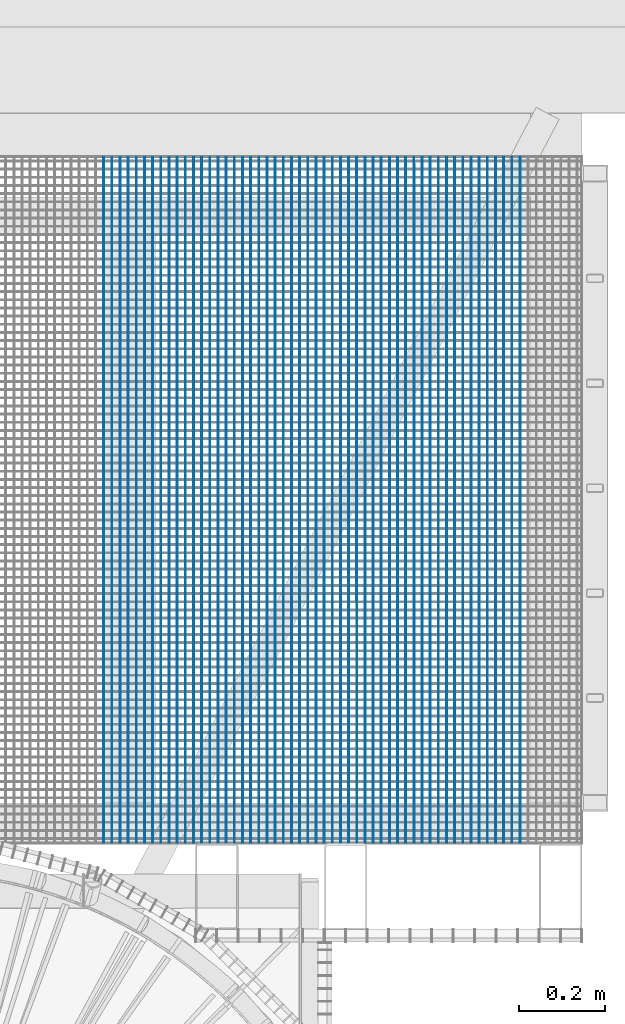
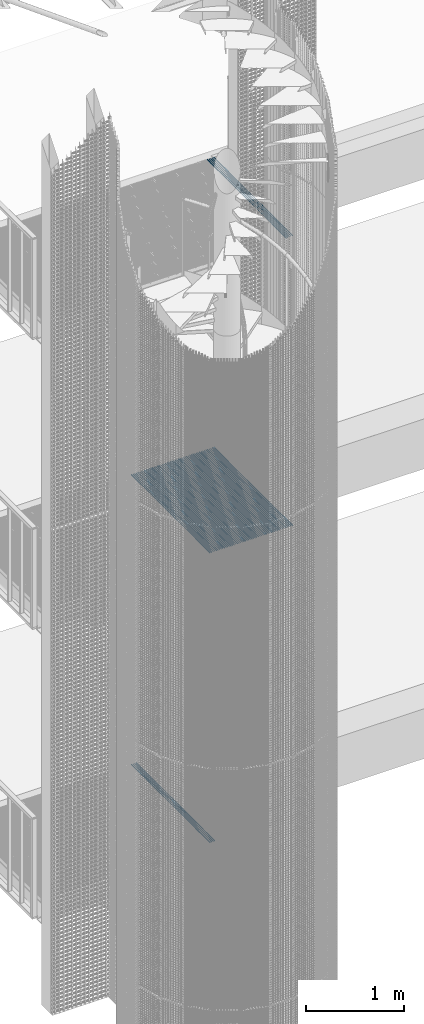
# One storey, part 88 of 1183: 61 beams, 3 elements without a shape of their own.
"""IFC2X3 building model written with IfcOpenShell, lengths in millimetres."""

from ifc_helpers import new_model, si_unit, frame, origin_with_axes, origin_2d_with_axis, place, context, subcontext, project, spatial, rectangle, extrude, material, type_object, element, aggregate, save


model = new_model("IFC2X3")

# Units and contexts
model_context = context("Model", 3, precision=1e-05, world=origin_with_axes())
body_context = subcontext(model_context, "Body", "Model", "MODEL_VIEW")
ifc_project = project(units=[si_unit("LENGTHUNIT", "METRE", prefix="MILLI"), si_unit("AREAUNIT", "SQUARE_METRE"), si_unit("VOLUMEUNIT", "CUBIC_METRE"), si_unit("MASSUNIT", "GRAM", prefix="KILO"), si_unit("TIMEUNIT", "SECOND"), si_unit("PLANEANGLEUNIT", "RADIAN"), si_unit("SOLIDANGLEUNIT", "STERADIAN"), si_unit("THERMODYNAMICTEMPERATUREUNIT", "DEGREE_CELSIUS"), si_unit("LUMINOUSINTENSITYUNIT", "LUMEN")], contexts=[model_context])

# Site, building, storey
site_placement = place(None, origin_with_axes())
site = spatial("IfcSite", under=ifc_project, at=site_placement, Name="Undefined", CompositionType="ELEMENT")
building_placement = place(site_placement, origin_with_axes())
building = spatial("IfcBuilding", under=site, at=building_placement, Name="Undefined", CompositionType="ELEMENT")
storey_placement = place(building_placement, origin_with_axes())
storey = spatial("IfcBuildingStorey", under=building, at=storey_placement, Name="Undefined", CompositionType="ELEMENT", Elevation=0.0)

# Assembly, beams
assembly_1_placement = place(storey_placement, origin_with_axes())
assembly_1 = element("IfcElementAssembly", 1, at=assembly_1_placement, inside=storey, Name="BORDURE", AssemblyPlace="NOTDEFINED", PredefinedType="NOTDEFINED")
ifc_material = material(Name="STEEL/S235JR")
beam_type = type_object("IfcBeamType", Name="PL2*10", PredefinedType="NOTDEFINED")
beam_1_placement = place(assembly_1_placement, frame((1330.07542471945, 1102.00886528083, 13685.0), z_axis=(0.0, 0.0, 1.0), x_axis=(-4.50599999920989e-06, 0.999999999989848, 0.0)))
beam_1 = element("IfcBeam", 2, at=beam_1_placement, type_object=beam_type, material=ifc_material, Name="ENTRETOISE", context=body_context, shape_type="SweptSolid", body=[
    extrude(rectangle(XDim=2.0, YDim=10.0, at=origin_2d_with_axis()), frame((1596.0000000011, -1.35186458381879e-18, -7.27595761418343e-12), z_axis=(-1.0, 0.0, 0.0), x_axis=(0.0, -1.0, 0.0)), (0.0, 0.0, 1.0), 1596.0),
])
beam_2_placement = place(assembly_1_placement, frame((1349.07542471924, 1102.00895879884, 13685.0), z_axis=(0.0, 0.0, 1.0), x_axis=(-4.50599999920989e-06, 0.999999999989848, 0.0)))
beam_2 = element("IfcBeam", 3, at=beam_2_placement, type_object=beam_type, material=ifc_material, Name="ENTRETOISE", context=body_context, shape_type="SweptSolid", body=[
    extrude(rectangle(XDim=2.0, YDim=10.0, at=origin_2d_with_axis()), frame((1596.0000000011, -1.35186458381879e-18, -7.27595761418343e-12), z_axis=(-1.0, 0.0, 0.0), x_axis=(0.0, -1.0, 0.0)), (0.0, 0.0, 1.0), 1596.0),
])
beam_3_placement = place(assembly_1_placement, frame((1368.07542471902, 1102.00905231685, 13685.0), z_axis=(0.0, 0.0, 1.0), x_axis=(-4.50599999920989e-06, 0.999999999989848, 0.0)))
beam_3 = element("IfcBeam", 4, at=beam_3_placement, type_object=beam_type, material=ifc_material, Name="ENTRETOISE", context=body_context, shape_type="SweptSolid", body=[
    extrude(rectangle(XDim=2.0, YDim=10.0, at=origin_2d_with_axis()), frame((1596.0000000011, -1.35186458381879e-18, -7.27595761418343e-12), z_axis=(-1.0, 0.0, 0.0), x_axis=(0.0, -1.0, 0.0)), (0.0, 0.0, 1.0), 1596.0),
])
beam_4_placement = place(assembly_1_placement, frame((1387.07542471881, 1102.00914583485, 13685.0), z_axis=(0.0, 0.0, 1.0), x_axis=(-4.50599999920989e-06, 0.999999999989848, 0.0)))
beam_4 = element("IfcBeam", 5, at=beam_4_placement, type_object=beam_type, material=ifc_material, Name="ENTRETOISE", context=body_context, shape_type="SweptSolid", body=[
    extrude(rectangle(XDim=2.0, YDim=10.0, at=origin_2d_with_axis()), frame((1596.0000000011, -1.35186458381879e-18, -7.27595761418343e-12), z_axis=(-1.0, 0.0, 0.0), x_axis=(0.0, -1.0, 0.0)), (0.0, 0.0, 1.0), 1596.0),
])
beam_5_placement = place(assembly_1_placement, frame((1406.0754247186, 1102.00923935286, 13685.0), z_axis=(0.0, 0.0, 1.0), x_axis=(-4.50599999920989e-06, 0.999999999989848, 0.0)))
beam_5 = element("IfcBeam", 6, at=beam_5_placement, type_object=beam_type, material=ifc_material, Name="ENTRETOISE", context=body_context, shape_type="SweptSolid", body=[
    extrude(rectangle(XDim=2.0, YDim=10.0, at=origin_2d_with_axis()), frame((1596.0000000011, -1.35186458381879e-18, -7.27595761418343e-12), z_axis=(-1.0, 0.0, 0.0), x_axis=(0.0, -1.0, 0.0)), (0.0, 0.0, 1.0), 1596.0),
])
aggregate(assembly_1, [beam_1, beam_2, beam_3, beam_4, beam_5])

assembly_2_placement = place(storey_placement, origin_with_axes())
assembly_2 = element("IfcElementAssembly", 7, at=assembly_2_placement, inside=storey, Name="BORDURE", AssemblyPlace="NOTDEFINED", PredefinedType="NOTDEFINED")
beam_6_placement = place(assembly_2_placement, frame((437.075424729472, 1102.00446993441, 10085.0), z_axis=(0.0, 0.0, 1.0), x_axis=(-4.50599999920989e-06, 0.999999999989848, 0.0)))
beam_6 = element("IfcBeam", 8, at=beam_6_placement, type_object=beam_type, material=ifc_material, Name="ENTRETOISE", context=body_context, shape_type="SweptSolid", body=[
    extrude(rectangle(XDim=2.0, YDim=10.0, at=origin_2d_with_axis()), frame((1596.0000000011, -1.35186458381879e-18, -7.27595761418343e-12), z_axis=(-1.0, 0.0, 0.0), x_axis=(0.0, -1.0, 0.0)), (0.0, 0.0, 1.0), 1596.0),
])
beam_7_placement = place(assembly_2_placement, frame((456.075424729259, 1102.00456345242, 10085.0), z_axis=(0.0, 0.0, 1.0), x_axis=(-4.50599999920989e-06, 0.999999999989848, 0.0)))
beam_7 = element("IfcBeam", 9, at=beam_7_placement, type_object=beam_type, material=ifc_material, Name="ENTRETOISE", context=body_context, shape_type="SweptSolid", body=[
    extrude(rectangle(XDim=2.0, YDim=10.0, at=origin_2d_with_axis()), frame((1596.0000000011, -1.35186458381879e-18, -7.27595761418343e-12), z_axis=(-1.0, 0.0, 0.0), x_axis=(0.0, -1.0, 0.0)), (0.0, 0.0, 1.0), 1596.0),
])
beam_8_placement = place(assembly_2_placement, frame((475.075424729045, 1102.00465697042, 10085.0), z_axis=(0.0, 0.0, 1.0), x_axis=(-4.50599999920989e-06, 0.999999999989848, 0.0)))
beam_8 = element("IfcBeam", 10, at=beam_8_placement, type_object=beam_type, material=ifc_material, Name="ENTRETOISE", context=body_context, shape_type="SweptSolid", body=[
    extrude(rectangle(XDim=2.0, YDim=10.0, at=origin_2d_with_axis()), frame((1596.0000000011, -1.35186458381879e-18, -7.27595761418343e-12), z_axis=(-1.0, 0.0, 0.0), x_axis=(0.0, -1.0, 0.0)), (0.0, 0.0, 1.0), 1596.0),
])
beam_9_placement = place(assembly_2_placement, frame((494.075424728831, 1102.00475048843, 10085.0), z_axis=(0.0, 0.0, 1.0), x_axis=(-4.50599999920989e-06, 0.999999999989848, 0.0)))
beam_9 = element("IfcBeam", 11, at=beam_9_placement, type_object=beam_type, material=ifc_material, Name="ENTRETOISE", context=body_context, shape_type="SweptSolid", body=[
    extrude(rectangle(XDim=2.0, YDim=10.0, at=origin_2d_with_axis()), frame((1596.0000000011, -1.35186458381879e-18, -7.27595761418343e-12), z_axis=(-1.0, 0.0, 0.0), x_axis=(0.0, -1.0, 0.0)), (0.0, 0.0, 1.0), 1596.0),
])
beam_10_placement = place(assembly_2_placement, frame((513.075424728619, 1102.00484400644, 10085.0), z_axis=(0.0, 0.0, 1.0), x_axis=(-4.50599999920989e-06, 0.999999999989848, 0.0)))
beam_10 = element("IfcBeam", 12, at=beam_10_placement, type_object=beam_type, material=ifc_material, Name="ENTRETOISE", context=body_context, shape_type="SweptSolid", body=[
    extrude(rectangle(XDim=2.0, YDim=10.0, at=origin_2d_with_axis()), frame((1596.0000000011, -1.35186458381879e-18, -7.27595761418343e-12), z_axis=(-1.0, 0.0, 0.0), x_axis=(0.0, -1.0, 0.0)), (0.0, 0.0, 1.0), 1596.0),
])
beam_11_placement = place(assembly_2_placement, frame((532.075424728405, 1102.00493752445, 10085.0), z_axis=(0.0, 0.0, 1.0), x_axis=(-4.50599999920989e-06, 0.999999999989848, 0.0)))
beam_11 = element("IfcBeam", 13, at=beam_11_placement, type_object=beam_type, material=ifc_material, Name="ENTRETOISE", context=body_context, shape_type="SweptSolid", body=[
    extrude(rectangle(XDim=2.0, YDim=10.0, at=origin_2d_with_axis()), frame((1596.0000000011, -1.35186458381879e-18, -7.27595761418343e-12), z_axis=(-1.0, 0.0, 0.0), x_axis=(0.0, -1.0, 0.0)), (0.0, 0.0, 1.0), 1596.0),
])
beam_12_placement = place(assembly_2_placement, frame((551.075424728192, 1102.00503104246, 10085.0), z_axis=(0.0, 0.0, 1.0), x_axis=(-4.50599999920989e-06, 0.999999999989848, 0.0)))
beam_12 = element("IfcBeam", 14, at=beam_12_placement, type_object=beam_type, material=ifc_material, Name="ENTRETOISE", context=body_context, shape_type="SweptSolid", body=[
    extrude(rectangle(XDim=2.0, YDim=10.0, at=origin_2d_with_axis()), frame((1596.0000000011, -1.35186458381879e-18, -7.27595761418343e-12), z_axis=(-1.0, 0.0, 0.0), x_axis=(0.0, -1.0, 0.0)), (0.0, 0.0, 1.0), 1596.0),
])
beam_13_placement = place(assembly_2_placement, frame((570.075424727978, 1102.00512456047, 10085.0), z_axis=(0.0, 0.0, 1.0), x_axis=(-4.50599999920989e-06, 0.999999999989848, 0.0)))
beam_13 = element("IfcBeam", 15, at=beam_13_placement, type_object=beam_type, material=ifc_material, Name="ENTRETOISE", context=body_context, shape_type="SweptSolid", body=[
    extrude(rectangle(XDim=2.0, YDim=10.0, at=origin_2d_with_axis()), frame((1596.0000000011, -1.35186458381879e-18, -7.27595761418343e-12), z_axis=(-1.0, 0.0, 0.0), x_axis=(0.0, -1.0, 0.0)), (0.0, 0.0, 1.0), 1596.0),
])
beam_14_placement = place(assembly_2_placement, frame((589.075424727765, 1102.00521807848, 10085.0), z_axis=(0.0, 0.0, 1.0), x_axis=(-4.50599999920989e-06, 0.999999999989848, 0.0)))
beam_14 = element("IfcBeam", 16, at=beam_14_placement, type_object=beam_type, material=ifc_material, Name="ENTRETOISE", context=body_context, shape_type="SweptSolid", body=[
    extrude(rectangle(XDim=2.0, YDim=10.0, at=origin_2d_with_axis()), frame((1596.0000000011, -1.35186458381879e-18, -7.27595761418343e-12), z_axis=(-1.0, 0.0, 0.0), x_axis=(0.0, -1.0, 0.0)), (0.0, 0.0, 1.0), 1596.0),
])
beam_15_placement = place(assembly_2_placement, frame((608.075424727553, 1102.00531159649, 10085.0), z_axis=(0.0, 0.0, 1.0), x_axis=(-4.50599999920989e-06, 0.999999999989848, 0.0)))
beam_15 = element("IfcBeam", 17, at=beam_15_placement, type_object=beam_type, material=ifc_material, Name="ENTRETOISE", context=body_context, shape_type="SweptSolid", body=[
    extrude(rectangle(XDim=2.0, YDim=10.0, at=origin_2d_with_axis()), frame((1596.0000000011, -1.35186458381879e-18, -7.27595761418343e-12), z_axis=(-1.0, 0.0, 0.0), x_axis=(0.0, -1.0, 0.0)), (0.0, 0.0, 1.0), 1596.0),
])
beam_16_placement = place(assembly_2_placement, frame((627.075424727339, 1102.0054051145, 10085.0), z_axis=(0.0, 0.0, 1.0), x_axis=(-4.50599999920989e-06, 0.999999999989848, 0.0)))
beam_16 = element("IfcBeam", 18, at=beam_16_placement, type_object=beam_type, material=ifc_material, Name="ENTRETOISE", context=body_context, shape_type="SweptSolid", body=[
    extrude(rectangle(XDim=2.0, YDim=10.0, at=origin_2d_with_axis()), frame((1596.0000000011, -1.35186458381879e-18, -7.27595761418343e-12), z_axis=(-1.0, 0.0, 0.0), x_axis=(0.0, -1.0, 0.0)), (0.0, 0.0, 1.0), 1596.0),
])
beam_17_placement = place(assembly_2_placement, frame((646.075424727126, 1102.0054986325, 10085.0), z_axis=(0.0, 0.0, 1.0), x_axis=(-4.50599999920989e-06, 0.999999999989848, 0.0)))
beam_17 = element("IfcBeam", 19, at=beam_17_placement, type_object=beam_type, material=ifc_material, Name="ENTRETOISE", context=body_context, shape_type="SweptSolid", body=[
    extrude(rectangle(XDim=2.0, YDim=10.0, at=origin_2d_with_axis()), frame((1596.0000000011, -1.35186458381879e-18, -7.27595761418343e-12), z_axis=(-1.0, 0.0, 0.0), x_axis=(0.0, -1.0, 0.0)), (0.0, 0.0, 1.0), 1596.0),
])
beam_18_placement = place(assembly_2_placement, frame((665.075424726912, 1102.00559215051, 10085.0), z_axis=(0.0, 0.0, 1.0), x_axis=(-4.50599999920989e-06, 0.999999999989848, 0.0)))
beam_18 = element("IfcBeam", 20, at=beam_18_placement, type_object=beam_type, material=ifc_material, Name="ENTRETOISE", context=body_context, shape_type="SweptSolid", body=[
    extrude(rectangle(XDim=2.0, YDim=10.0, at=origin_2d_with_axis()), frame((1596.0000000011, -1.35186458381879e-18, -7.27595761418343e-12), z_axis=(-1.0, 0.0, 0.0), x_axis=(0.0, -1.0, 0.0)), (0.0, 0.0, 1.0), 1596.0),
])
beam_19_placement = place(assembly_2_placement, frame((684.0754247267, 1102.00568566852, 10085.0), z_axis=(0.0, 0.0, 1.0), x_axis=(-4.50599999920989e-06, 0.999999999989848, 0.0)))
beam_19 = element("IfcBeam", 21, at=beam_19_placement, type_object=beam_type, material=ifc_material, Name="ENTRETOISE", context=body_context, shape_type="SweptSolid", body=[
    extrude(rectangle(XDim=2.0, YDim=10.0, at=origin_2d_with_axis()), frame((1596.0000000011, -1.35186458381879e-18, -7.27595761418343e-12), z_axis=(-1.0, 0.0, 0.0), x_axis=(0.0, -1.0, 0.0)), (0.0, 0.0, 1.0), 1596.0),
])
beam_20_placement = place(assembly_2_placement, frame((703.075424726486, 1102.00577918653, 10085.0), z_axis=(0.0, 0.0, 1.0), x_axis=(-4.50599999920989e-06, 0.999999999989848, 0.0)))
beam_20 = element("IfcBeam", 22, at=beam_20_placement, type_object=beam_type, material=ifc_material, Name="ENTRETOISE", context=body_context, shape_type="SweptSolid", body=[
    extrude(rectangle(XDim=2.0, YDim=10.0, at=origin_2d_with_axis()), frame((1596.0000000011, -1.35186458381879e-18, -7.27595761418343e-12), z_axis=(-1.0, 0.0, 0.0), x_axis=(0.0, -1.0, 0.0)), (0.0, 0.0, 1.0), 1596.0),
])
beam_21_placement = place(assembly_2_placement, frame((722.075424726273, 1102.00587270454, 10085.0), z_axis=(0.0, 0.0, 1.0), x_axis=(-4.50599999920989e-06, 0.999999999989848, 0.0)))
beam_21 = element("IfcBeam", 23, at=beam_21_placement, type_object=beam_type, material=ifc_material, Name="ENTRETOISE", context=body_context, shape_type="SweptSolid", body=[
    extrude(rectangle(XDim=2.0, YDim=10.0, at=origin_2d_with_axis()), frame((1596.0000000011, -1.35186458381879e-18, -7.27595761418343e-12), z_axis=(-1.0, 0.0, 0.0), x_axis=(0.0, -1.0, 0.0)), (0.0, 0.0, 1.0), 1596.0),
])
beam_22_placement = place(assembly_2_placement, frame((741.075424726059, 1102.00596622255, 10085.0), z_axis=(0.0, 0.0, 1.0), x_axis=(-4.50599999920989e-06, 0.999999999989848, 0.0)))
beam_22 = element("IfcBeam", 24, at=beam_22_placement, type_object=beam_type, material=ifc_material, Name="ENTRETOISE", context=body_context, shape_type="SweptSolid", body=[
    extrude(rectangle(XDim=2.0, YDim=10.0, at=origin_2d_with_axis()), frame((1596.0000000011, -1.35186458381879e-18, -7.27595761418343e-12), z_axis=(-1.0, 0.0, 0.0), x_axis=(0.0, -1.0, 0.0)), (0.0, 0.0, 1.0), 1596.0),
])
beam_23_placement = place(assembly_2_placement, frame((760.075424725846, 1102.00605974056, 10085.0), z_axis=(0.0, 0.0, 1.0), x_axis=(-4.50599999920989e-06, 0.999999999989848, 0.0)))
beam_23 = element("IfcBeam", 25, at=beam_23_placement, type_object=beam_type, material=ifc_material, Name="ENTRETOISE", context=body_context, shape_type="SweptSolid", body=[
    extrude(rectangle(XDim=2.0, YDim=10.0, at=origin_2d_with_axis()), frame((1596.0000000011, -1.35186458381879e-18, -7.27595761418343e-12), z_axis=(-1.0, 0.0, 0.0), x_axis=(0.0, -1.0, 0.0)), (0.0, 0.0, 1.0), 1596.0),
])
beam_24_placement = place(assembly_2_placement, frame((779.075424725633, 1102.00615325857, 10085.0), z_axis=(0.0, 0.0, 1.0), x_axis=(-4.50599999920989e-06, 0.999999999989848, 0.0)))
beam_24 = element("IfcBeam", 26, at=beam_24_placement, type_object=beam_type, material=ifc_material, Name="ENTRETOISE", context=body_context, shape_type="SweptSolid", body=[
    extrude(rectangle(XDim=2.0, YDim=10.0, at=origin_2d_with_axis()), frame((1596.0000000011, -1.35186458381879e-18, -7.27595761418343e-12), z_axis=(-1.0, 0.0, 0.0), x_axis=(0.0, -1.0, 0.0)), (0.0, 0.0, 1.0), 1596.0),
])
beam_25_placement = place(assembly_2_placement, frame((798.07542472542, 1102.00624677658, 10085.0), z_axis=(0.0, 0.0, 1.0), x_axis=(-4.50599999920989e-06, 0.999999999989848, 0.0)))
beam_25 = element("IfcBeam", 27, at=beam_25_placement, type_object=beam_type, material=ifc_material, Name="ENTRETOISE", context=body_context, shape_type="SweptSolid", body=[
    extrude(rectangle(XDim=2.0, YDim=10.0, at=origin_2d_with_axis()), frame((1596.0000000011, -1.35186458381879e-18, -7.27595761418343e-12), z_axis=(-1.0, 0.0, 0.0), x_axis=(0.0, -1.0, 0.0)), (0.0, 0.0, 1.0), 1596.0),
])
beam_26_placement = place(assembly_2_placement, frame((817.075424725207, 1102.00634029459, 10085.0), z_axis=(0.0, 0.0, 1.0), x_axis=(-4.50599999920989e-06, 0.999999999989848, 0.0)))
beam_26 = element("IfcBeam", 28, at=beam_26_placement, type_object=beam_type, material=ifc_material, Name="ENTRETOISE", context=body_context, shape_type="SweptSolid", body=[
    extrude(rectangle(XDim=2.0, YDim=10.0, at=origin_2d_with_axis()), frame((1596.0000000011, -1.35186458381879e-18, -7.27595761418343e-12), z_axis=(-1.0, 0.0, 0.0), x_axis=(0.0, -1.0, 0.0)), (0.0, 0.0, 1.0), 1596.0),
])
beam_27_placement = place(assembly_2_placement, frame((836.075424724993, 1102.00643381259, 10085.0), z_axis=(0.0, 0.0, 1.0), x_axis=(-4.50599999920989e-06, 0.999999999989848, 0.0)))
beam_27 = element("IfcBeam", 29, at=beam_27_placement, type_object=beam_type, material=ifc_material, Name="ENTRETOISE", context=body_context, shape_type="SweptSolid", body=[
    extrude(rectangle(XDim=2.0, YDim=10.0, at=origin_2d_with_axis()), frame((1596.0000000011, -1.35186458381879e-18, -7.27595761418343e-12), z_axis=(-1.0, 0.0, 0.0), x_axis=(0.0, -1.0, 0.0)), (0.0, 0.0, 1.0), 1596.0),
])
beam_28_placement = place(assembly_2_placement, frame((855.075424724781, 1102.0065273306, 10085.0), z_axis=(0.0, 0.0, 1.0), x_axis=(-4.50599999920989e-06, 0.999999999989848, 0.0)))
beam_28 = element("IfcBeam", 30, at=beam_28_placement, type_object=beam_type, material=ifc_material, Name="ENTRETOISE", context=body_context, shape_type="SweptSolid", body=[
    extrude(rectangle(XDim=2.0, YDim=10.0, at=origin_2d_with_axis()), frame((1596.0000000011, -1.35186458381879e-18, -7.27595761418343e-12), z_axis=(-1.0, 0.0, 0.0), x_axis=(0.0, -1.0, 0.0)), (0.0, 0.0, 1.0), 1596.0),
])
beam_29_placement = place(assembly_2_placement, frame((874.075424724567, 1102.00662084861, 10085.0), z_axis=(0.0, 0.0, 1.0), x_axis=(-4.50599999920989e-06, 0.999999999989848, 0.0)))
beam_29 = element("IfcBeam", 31, at=beam_29_placement, type_object=beam_type, material=ifc_material, Name="ENTRETOISE", context=body_context, shape_type="SweptSolid", body=[
    extrude(rectangle(XDim=2.0, YDim=10.0, at=origin_2d_with_axis()), frame((1596.0000000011, -1.35186458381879e-18, -7.27595761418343e-12), z_axis=(-1.0, 0.0, 0.0), x_axis=(0.0, -1.0, 0.0)), (0.0, 0.0, 1.0), 1596.0),
])
beam_30_placement = place(assembly_2_placement, frame((893.075424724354, 1102.00671436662, 10085.0), z_axis=(0.0, 0.0, 1.0), x_axis=(-4.50599999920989e-06, 0.999999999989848, 0.0)))
beam_30 = element("IfcBeam", 32, at=beam_30_placement, type_object=beam_type, material=ifc_material, Name="ENTRETOISE", context=body_context, shape_type="SweptSolid", body=[
    extrude(rectangle(XDim=2.0, YDim=10.0, at=origin_2d_with_axis()), frame((1596.0000000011, -1.35186458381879e-18, -7.27595761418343e-12), z_axis=(-1.0, 0.0, 0.0), x_axis=(0.0, -1.0, 0.0)), (0.0, 0.0, 1.0), 1596.0),
])
beam_31_placement = place(assembly_2_placement, frame((912.07542472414, 1102.00680788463, 10085.0), z_axis=(0.0, 0.0, 1.0), x_axis=(-4.50599999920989e-06, 0.999999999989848, 0.0)))
beam_31 = element("IfcBeam", 33, at=beam_31_placement, type_object=beam_type, material=ifc_material, Name="ENTRETOISE", context=body_context, shape_type="SweptSolid", body=[
    extrude(rectangle(XDim=2.0, YDim=10.0, at=origin_2d_with_axis()), frame((1596.0000000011, -1.35186458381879e-18, -7.27595761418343e-12), z_axis=(-1.0, 0.0, 0.0), x_axis=(0.0, -1.0, 0.0)), (0.0, 0.0, 1.0), 1596.0),
])
beam_32_placement = place(assembly_2_placement, frame((931.075424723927, 1102.00690140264, 10085.0), z_axis=(0.0, 0.0, 1.0), x_axis=(-4.50599999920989e-06, 0.999999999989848, 0.0)))
beam_32 = element("IfcBeam", 34, at=beam_32_placement, type_object=beam_type, material=ifc_material, Name="ENTRETOISE", context=body_context, shape_type="SweptSolid", body=[
    extrude(rectangle(XDim=2.0, YDim=10.0, at=origin_2d_with_axis()), frame((1596.0000000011, -1.35186458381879e-18, -7.27595761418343e-12), z_axis=(-1.0, 0.0, 0.0), x_axis=(0.0, -1.0, 0.0)), (0.0, 0.0, 1.0), 1596.0),
])
beam_33_placement = place(assembly_2_placement, frame((950.075424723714, 1102.00699492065, 10085.0), z_axis=(0.0, 0.0, 1.0), x_axis=(-4.50599999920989e-06, 0.999999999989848, 0.0)))
beam_33 = element("IfcBeam", 35, at=beam_33_placement, type_object=beam_type, material=ifc_material, Name="ENTRETOISE", context=body_context, shape_type="SweptSolid", body=[
    extrude(rectangle(XDim=2.0, YDim=10.0, at=origin_2d_with_axis()), frame((1596.0000000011, -1.35186458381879e-18, -7.27595761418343e-12), z_axis=(-1.0, 0.0, 0.0), x_axis=(0.0, -1.0, 0.0)), (0.0, 0.0, 1.0), 1596.0),
])
beam_34_placement = place(assembly_2_placement, frame((969.0754247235, 1102.00708843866, 10085.0), z_axis=(0.0, 0.0, 1.0), x_axis=(-4.50599999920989e-06, 0.999999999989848, 0.0)))
beam_34 = element("IfcBeam", 36, at=beam_34_placement, type_object=beam_type, material=ifc_material, Name="ENTRETOISE", context=body_context, shape_type="SweptSolid", body=[
    extrude(rectangle(XDim=2.0, YDim=10.0, at=origin_2d_with_axis()), frame((1596.0000000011, -1.35186458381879e-18, -7.27595761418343e-12), z_axis=(-1.0, 0.0, 0.0), x_axis=(0.0, -1.0, 0.0)), (0.0, 0.0, 1.0), 1596.0),
])
beam_35_placement = place(assembly_2_placement, frame((988.075424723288, 1102.00718195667, 10085.0), z_axis=(0.0, 0.0, 1.0), x_axis=(-4.50599999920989e-06, 0.999999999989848, 0.0)))
beam_35 = element("IfcBeam", 37, at=beam_35_placement, type_object=beam_type, material=ifc_material, Name="ENTRETOISE", context=body_context, shape_type="SweptSolid", body=[
    extrude(rectangle(XDim=2.0, YDim=10.0, at=origin_2d_with_axis()), frame((1596.0000000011, -1.35186458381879e-18, -7.27595761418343e-12), z_axis=(-1.0, 0.0, 0.0), x_axis=(0.0, -1.0, 0.0)), (0.0, 0.0, 1.0), 1596.0),
])
beam_36_placement = place(assembly_2_placement, frame((1007.07542472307, 1102.00727547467, 10085.0), z_axis=(0.0, 0.0, 1.0), x_axis=(-4.50599999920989e-06, 0.999999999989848, 0.0)))
beam_36 = element("IfcBeam", 38, at=beam_36_placement, type_object=beam_type, material=ifc_material, Name="ENTRETOISE", context=body_context, shape_type="SweptSolid", body=[
    extrude(rectangle(XDim=2.0, YDim=10.0, at=origin_2d_with_axis()), frame((1596.0000000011, -1.35186458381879e-18, -7.27595761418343e-12), z_axis=(-1.0, 0.0, 0.0), x_axis=(0.0, -1.0, 0.0)), (0.0, 0.0, 1.0), 1596.0),
])
beam_37_placement = place(assembly_2_placement, frame((1026.07542472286, 1102.00736899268, 10085.0), z_axis=(0.0, 0.0, 1.0), x_axis=(-4.50599999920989e-06, 0.999999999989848, 0.0)))
beam_37 = element("IfcBeam", 39, at=beam_37_placement, type_object=beam_type, material=ifc_material, Name="ENTRETOISE", context=body_context, shape_type="SweptSolid", body=[
    extrude(rectangle(XDim=2.0, YDim=10.0, at=origin_2d_with_axis()), frame((1596.0000000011, -1.35186458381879e-18, -7.27595761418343e-12), z_axis=(-1.0, 0.0, 0.0), x_axis=(0.0, -1.0, 0.0)), (0.0, 0.0, 1.0), 1596.0),
])
beam_38_placement = place(assembly_2_placement, frame((1045.07542472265, 1102.00746251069, 10085.0), z_axis=(0.0, 0.0, 1.0), x_axis=(-4.50599999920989e-06, 0.999999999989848, 0.0)))
beam_38 = element("IfcBeam", 40, at=beam_38_placement, type_object=beam_type, material=ifc_material, Name="ENTRETOISE", context=body_context, shape_type="SweptSolid", body=[
    extrude(rectangle(XDim=2.0, YDim=10.0, at=origin_2d_with_axis()), frame((1596.0000000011, -1.35186458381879e-18, -7.27595761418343e-12), z_axis=(-1.0, 0.0, 0.0), x_axis=(0.0, -1.0, 0.0)), (0.0, 0.0, 1.0), 1596.0),
])
beam_39_placement = place(assembly_2_placement, frame((1064.07542472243, 1102.0075560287, 10085.0), z_axis=(0.0, 0.0, 1.0), x_axis=(-4.50599999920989e-06, 0.999999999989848, 0.0)))
beam_39 = element("IfcBeam", 41, at=beam_39_placement, type_object=beam_type, material=ifc_material, Name="ENTRETOISE", context=body_context, shape_type="SweptSolid", body=[
    extrude(rectangle(XDim=2.0, YDim=10.0, at=origin_2d_with_axis()), frame((1596.0000000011, -1.35186458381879e-18, -7.27595761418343e-12), z_axis=(-1.0, 0.0, 0.0), x_axis=(0.0, -1.0, 0.0)), (0.0, 0.0, 1.0), 1596.0),
])
beam_40_placement = place(assembly_2_placement, frame((1083.07542472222, 1102.00764954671, 10085.0), z_axis=(0.0, 0.0, 1.0), x_axis=(-4.50599999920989e-06, 0.999999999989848, 0.0)))
beam_40 = element("IfcBeam", 42, at=beam_40_placement, type_object=beam_type, material=ifc_material, Name="ENTRETOISE", context=body_context, shape_type="SweptSolid", body=[
    extrude(rectangle(XDim=2.0, YDim=10.0, at=origin_2d_with_axis()), frame((1596.0000000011, -1.35186458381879e-18, -7.27595761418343e-12), z_axis=(-1.0, 0.0, 0.0), x_axis=(0.0, -1.0, 0.0)), (0.0, 0.0, 1.0), 1596.0),
])
beam_41_placement = place(assembly_2_placement, frame((1102.07542472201, 1102.00774306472, 10085.0), z_axis=(0.0, 0.0, 1.0), x_axis=(-4.50599999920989e-06, 0.999999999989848, 0.0)))
beam_41 = element("IfcBeam", 43, at=beam_41_placement, type_object=beam_type, material=ifc_material, Name="ENTRETOISE", context=body_context, shape_type="SweptSolid", body=[
    extrude(rectangle(XDim=2.0, YDim=10.0, at=origin_2d_with_axis()), frame((1596.0000000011, -1.35186458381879e-18, -7.27595761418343e-12), z_axis=(-1.0, 0.0, 0.0), x_axis=(0.0, -1.0, 0.0)), (0.0, 0.0, 1.0), 1596.0),
])
beam_42_placement = place(assembly_2_placement, frame((1121.07542472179, 1102.00783658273, 10085.0), z_axis=(0.0, 0.0, 1.0), x_axis=(-4.50599999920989e-06, 0.999999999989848, 0.0)))
beam_42 = element("IfcBeam", 44, at=beam_42_placement, type_object=beam_type, material=ifc_material, Name="ENTRETOISE", context=body_context, shape_type="SweptSolid", body=[
    extrude(rectangle(XDim=2.0, YDim=10.0, at=origin_2d_with_axis()), frame((1596.0000000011, -1.35186458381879e-18, -7.27595761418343e-12), z_axis=(-1.0, 0.0, 0.0), x_axis=(0.0, -1.0, 0.0)), (0.0, 0.0, 1.0), 1596.0),
])
beam_43_placement = place(assembly_2_placement, frame((1140.07542472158, 1102.00793010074, 10085.0), z_axis=(0.0, 0.0, 1.0), x_axis=(-4.50599999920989e-06, 0.999999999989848, 0.0)))
beam_43 = element("IfcBeam", 45, at=beam_43_placement, type_object=beam_type, material=ifc_material, Name="ENTRETOISE", context=body_context, shape_type="SweptSolid", body=[
    extrude(rectangle(XDim=2.0, YDim=10.0, at=origin_2d_with_axis()), frame((1596.0000000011, -1.35186458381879e-18, -7.27595761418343e-12), z_axis=(-1.0, 0.0, 0.0), x_axis=(0.0, -1.0, 0.0)), (0.0, 0.0, 1.0), 1596.0),
])
beam_44_placement = place(assembly_2_placement, frame((1159.07542472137, 1102.00802361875, 10085.0), z_axis=(0.0, 0.0, 1.0), x_axis=(-4.50599999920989e-06, 0.999999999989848, 0.0)))
beam_44 = element("IfcBeam", 46, at=beam_44_placement, type_object=beam_type, material=ifc_material, Name="ENTRETOISE", context=body_context, shape_type="SweptSolid", body=[
    extrude(rectangle(XDim=2.0, YDim=10.0, at=origin_2d_with_axis()), frame((1596.0000000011, -1.35186458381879e-18, -7.27595761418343e-12), z_axis=(-1.0, 0.0, 0.0), x_axis=(0.0, -1.0, 0.0)), (0.0, 0.0, 1.0), 1596.0),
])
beam_45_placement = place(assembly_2_placement, frame((1178.07542472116, 1102.00811713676, 10085.0), z_axis=(0.0, 0.0, 1.0), x_axis=(-4.50599999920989e-06, 0.999999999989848, 0.0)))
beam_45 = element("IfcBeam", 47, at=beam_45_placement, type_object=beam_type, material=ifc_material, Name="ENTRETOISE", context=body_context, shape_type="SweptSolid", body=[
    extrude(rectangle(XDim=2.0, YDim=10.0, at=origin_2d_with_axis()), frame((1596.0000000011, -1.35186458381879e-18, -7.27595761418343e-12), z_axis=(-1.0, 0.0, 0.0), x_axis=(0.0, -1.0, 0.0)), (0.0, 0.0, 1.0), 1596.0),
])
beam_46_placement = place(assembly_2_placement, frame((1197.07542472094, 1102.00821065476, 10085.0), z_axis=(0.0, 0.0, 1.0), x_axis=(-4.50599999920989e-06, 0.999999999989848, 0.0)))
beam_46 = element("IfcBeam", 48, at=beam_46_placement, type_object=beam_type, material=ifc_material, Name="ENTRETOISE", context=body_context, shape_type="SweptSolid", body=[
    extrude(rectangle(XDim=2.0, YDim=10.0, at=origin_2d_with_axis()), frame((1596.0000000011, -1.35186458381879e-18, -7.27595761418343e-12), z_axis=(-1.0, 0.0, 0.0), x_axis=(0.0, -1.0, 0.0)), (0.0, 0.0, 1.0), 1596.0),
])
beam_47_placement = place(assembly_2_placement, frame((1216.07542472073, 1102.00830417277, 10085.0), z_axis=(0.0, 0.0, 1.0), x_axis=(-4.50599999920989e-06, 0.999999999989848, 0.0)))
beam_47 = element("IfcBeam", 49, at=beam_47_placement, type_object=beam_type, material=ifc_material, Name="ENTRETOISE", context=body_context, shape_type="SweptSolid", body=[
    extrude(rectangle(XDim=2.0, YDim=10.0, at=origin_2d_with_axis()), frame((1596.0000000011, -1.35186458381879e-18, -7.27595761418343e-12), z_axis=(-1.0, 0.0, 0.0), x_axis=(0.0, -1.0, 0.0)), (0.0, 0.0, 1.0), 1596.0),
])
beam_48_placement = place(assembly_2_placement, frame((1235.07542472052, 1102.00839769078, 10085.0), z_axis=(0.0, 0.0, 1.0), x_axis=(-4.50599999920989e-06, 0.999999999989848, 0.0)))
beam_48 = element("IfcBeam", 50, at=beam_48_placement, type_object=beam_type, material=ifc_material, Name="ENTRETOISE", context=body_context, shape_type="SweptSolid", body=[
    extrude(rectangle(XDim=2.0, YDim=10.0, at=origin_2d_with_axis()), frame((1596.0000000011, -1.35186458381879e-18, -7.27595761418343e-12), z_axis=(-1.0, 0.0, 0.0), x_axis=(0.0, -1.0, 0.0)), (0.0, 0.0, 1.0), 1596.0),
])
beam_49_placement = place(assembly_2_placement, frame((1254.0754247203, 1102.00849120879, 10085.0), z_axis=(0.0, 0.0, 1.0), x_axis=(-4.50599999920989e-06, 0.999999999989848, 0.0)))
beam_49 = element("IfcBeam", 51, at=beam_49_placement, type_object=beam_type, material=ifc_material, Name="ENTRETOISE", context=body_context, shape_type="SweptSolid", body=[
    extrude(rectangle(XDim=2.0, YDim=10.0, at=origin_2d_with_axis()), frame((1596.0000000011, -1.35186458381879e-18, -7.27595761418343e-12), z_axis=(-1.0, 0.0, 0.0), x_axis=(0.0, -1.0, 0.0)), (0.0, 0.0, 1.0), 1596.0),
])
beam_50_placement = place(assembly_2_placement, frame((1273.07542472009, 1102.0085847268, 10085.0), z_axis=(0.0, 0.0, 1.0), x_axis=(-4.50599999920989e-06, 0.999999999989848, 0.0)))
beam_50 = element("IfcBeam", 52, at=beam_50_placement, type_object=beam_type, material=ifc_material, Name="ENTRETOISE", context=body_context, shape_type="SweptSolid", body=[
    extrude(rectangle(XDim=2.0, YDim=10.0, at=origin_2d_with_axis()), frame((1596.0000000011, -1.35186458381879e-18, -7.27595761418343e-12), z_axis=(-1.0, 0.0, 0.0), x_axis=(0.0, -1.0, 0.0)), (0.0, 0.0, 1.0), 1596.0),
])
beam_51_placement = place(assembly_2_placement, frame((1292.07542471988, 1102.00867824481, 10085.0), z_axis=(0.0, 0.0, 1.0), x_axis=(-4.50599999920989e-06, 0.999999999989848, 0.0)))
beam_51 = element("IfcBeam", 53, at=beam_51_placement, type_object=beam_type, material=ifc_material, Name="ENTRETOISE", context=body_context, shape_type="SweptSolid", body=[
    extrude(rectangle(XDim=2.0, YDim=10.0, at=origin_2d_with_axis()), frame((1596.0000000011, -1.35186458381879e-18, -7.27595761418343e-12), z_axis=(-1.0, 0.0, 0.0), x_axis=(0.0, -1.0, 0.0)), (0.0, 0.0, 1.0), 1596.0),
])
beam_52_placement = place(assembly_2_placement, frame((1311.07542471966, 1102.00877176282, 10085.0), z_axis=(0.0, 0.0, 1.0), x_axis=(-4.50599999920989e-06, 0.999999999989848, 0.0)))
beam_52 = element("IfcBeam", 54, at=beam_52_placement, type_object=beam_type, material=ifc_material, Name="ENTRETOISE", context=body_context, shape_type="SweptSolid", body=[
    extrude(rectangle(XDim=2.0, YDim=10.0, at=origin_2d_with_axis()), frame((1596.0000000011, -1.35186458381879e-18, -7.27595761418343e-12), z_axis=(-1.0, 0.0, 0.0), x_axis=(0.0, -1.0, 0.0)), (0.0, 0.0, 1.0), 1596.0),
])
beam_53_placement = place(assembly_2_placement, frame((1330.07542471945, 1102.00886528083, 10085.0), z_axis=(0.0, 0.0, 1.0), x_axis=(-4.50599999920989e-06, 0.999999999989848, 0.0)))
beam_53 = element("IfcBeam", 55, at=beam_53_placement, type_object=beam_type, material=ifc_material, Name="ENTRETOISE", context=body_context, shape_type="SweptSolid", body=[
    extrude(rectangle(XDim=2.0, YDim=10.0, at=origin_2d_with_axis()), frame((1596.0000000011, -1.35186458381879e-18, -7.27595761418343e-12), z_axis=(-1.0, 0.0, 0.0), x_axis=(0.0, -1.0, 0.0)), (0.0, 0.0, 1.0), 1596.0),
])
beam_54_placement = place(assembly_2_placement, frame((1349.07542471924, 1102.00895879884, 10085.0), z_axis=(0.0, 0.0, 1.0), x_axis=(-4.50599999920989e-06, 0.999999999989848, 0.0)))
beam_54 = element("IfcBeam", 56, at=beam_54_placement, type_object=beam_type, material=ifc_material, Name="ENTRETOISE", context=body_context, shape_type="SweptSolid", body=[
    extrude(rectangle(XDim=2.0, YDim=10.0, at=origin_2d_with_axis()), frame((1596.0000000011, -1.35186458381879e-18, -7.27595761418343e-12), z_axis=(-1.0, 0.0, 0.0), x_axis=(0.0, -1.0, 0.0)), (0.0, 0.0, 1.0), 1596.0),
])
beam_55_placement = place(assembly_2_placement, frame((1368.07542471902, 1102.00905231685, 10085.0), z_axis=(0.0, 0.0, 1.0), x_axis=(-4.50599999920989e-06, 0.999999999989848, 0.0)))
beam_55 = element("IfcBeam", 57, at=beam_55_placement, type_object=beam_type, material=ifc_material, Name="ENTRETOISE", context=body_context, shape_type="SweptSolid", body=[
    extrude(rectangle(XDim=2.0, YDim=10.0, at=origin_2d_with_axis()), frame((1596.0000000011, -1.35186458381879e-18, -7.27595761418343e-12), z_axis=(-1.0, 0.0, 0.0), x_axis=(0.0, -1.0, 0.0)), (0.0, 0.0, 1.0), 1596.0),
])
beam_56_placement = place(assembly_2_placement, frame((1387.07542471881, 1102.00914583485, 10085.0), z_axis=(0.0, 0.0, 1.0), x_axis=(-4.50599999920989e-06, 0.999999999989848, 0.0)))
beam_56 = element("IfcBeam", 58, at=beam_56_placement, type_object=beam_type, material=ifc_material, Name="ENTRETOISE", context=body_context, shape_type="SweptSolid", body=[
    extrude(rectangle(XDim=2.0, YDim=10.0, at=origin_2d_with_axis()), frame((1596.0000000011, -1.35186458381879e-18, -7.27595761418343e-12), z_axis=(-1.0, 0.0, 0.0), x_axis=(0.0, -1.0, 0.0)), (0.0, 0.0, 1.0), 1596.0),
])
beam_57_placement = place(assembly_2_placement, frame((1406.0754247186, 1102.00923935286, 10085.0), z_axis=(0.0, 0.0, 1.0), x_axis=(-4.50599999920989e-06, 0.999999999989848, 0.0)))
beam_57 = element("IfcBeam", 59, at=beam_57_placement, type_object=beam_type, material=ifc_material, Name="ENTRETOISE", context=body_context, shape_type="SweptSolid", body=[
    extrude(rectangle(XDim=2.0, YDim=10.0, at=origin_2d_with_axis()), frame((1596.0000000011, -1.35186458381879e-18, -7.27595761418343e-12), z_axis=(-1.0, 0.0, 0.0), x_axis=(0.0, -1.0, 0.0)), (0.0, 0.0, 1.0), 1596.0),
])
aggregate(assembly_2, [beam_6, beam_7, beam_8, beam_9, beam_10, beam_11, beam_12, beam_13, beam_14, beam_15, beam_16, beam_17, beam_18, beam_19, beam_20, beam_21, beam_22, beam_23, beam_24, beam_25, beam_26, beam_27, beam_28, beam_29, beam_30, beam_31, beam_32, beam_33, beam_34, beam_35, beam_36, beam_37, beam_38, beam_39, beam_40, beam_41, beam_42, beam_43, beam_44, beam_45, beam_46, beam_47, beam_48, beam_49, beam_50, beam_51, beam_52, beam_53, beam_54, beam_55, beam_56, beam_57])

assembly_3_placement = place(storey_placement, origin_with_axes())
assembly_3 = element("IfcElementAssembly", 60, at=assembly_3_placement, inside=storey, Name="BORDURE", AssemblyPlace="NOTDEFINED", PredefinedType="NOTDEFINED")
beam_58_placement = place(assembly_3_placement, frame((437.075424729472, 1102.00446993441, 6485.0), z_axis=(0.0, 0.0, 1.0), x_axis=(-4.50599999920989e-06, 0.999999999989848, 0.0)))
beam_58 = element("IfcBeam", 61, at=beam_58_placement, type_object=beam_type, material=ifc_material, Name="ENTRETOISE", context=body_context, shape_type="SweptSolid", body=[
    extrude(rectangle(XDim=2.0, YDim=10.0, at=origin_2d_with_axis()), frame((1596.0000000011, -1.35186458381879e-18, -7.27595761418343e-12), z_axis=(-1.0, 0.0, 0.0), x_axis=(0.0, -1.0, 0.0)), (0.0, 0.0, 1.0), 1596.0),
])
beam_59_placement = place(assembly_3_placement, frame((456.075424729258, 1102.00456345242, 6485.0), z_axis=(0.0, 0.0, 1.0), x_axis=(-4.50599999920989e-06, 0.999999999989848, 0.0)))
beam_59 = element("IfcBeam", 62, at=beam_59_placement, type_object=beam_type, material=ifc_material, Name="ENTRETOISE", context=body_context, shape_type="SweptSolid", body=[
    extrude(rectangle(XDim=2.0, YDim=10.0, at=origin_2d_with_axis()), frame((1596.0000000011, -1.35186458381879e-18, -7.27595761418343e-12), z_axis=(-1.0, 0.0, 0.0), x_axis=(0.0, -1.0, 0.0)), (0.0, 0.0, 1.0), 1596.0),
])
beam_60_placement = place(assembly_3_placement, frame((475.075424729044, 1102.00465697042, 6485.0), z_axis=(0.0, 0.0, 1.0), x_axis=(-4.50599999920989e-06, 0.999999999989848, 0.0)))
beam_60 = element("IfcBeam", 63, at=beam_60_placement, type_object=beam_type, material=ifc_material, Name="ENTRETOISE", context=body_context, shape_type="SweptSolid", body=[
    extrude(rectangle(XDim=2.0, YDim=10.0, at=origin_2d_with_axis()), frame((1596.0000000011, -1.35186458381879e-18, -7.27595761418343e-12), z_axis=(-1.0, 0.0, 0.0), x_axis=(0.0, -1.0, 0.0)), (0.0, 0.0, 1.0), 1596.0),
])
beam_61_placement = place(assembly_3_placement, frame((494.075424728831, 1102.00475048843, 6485.0), z_axis=(0.0, 0.0, 1.0), x_axis=(-4.50599999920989e-06, 0.999999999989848, 0.0)))
beam_61 = element("IfcBeam", 64, at=beam_61_placement, type_object=beam_type, material=ifc_material, Name="ENTRETOISE", context=body_context, shape_type="SweptSolid", body=[
    extrude(rectangle(XDim=2.0, YDim=10.0, at=origin_2d_with_axis()), frame((1596.0000000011, -1.35186458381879e-18, -7.27595761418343e-12), z_axis=(-1.0, 0.0, 0.0), x_axis=(0.0, -1.0, 0.0)), (0.0, 0.0, 1.0), 1596.0),
])
aggregate(assembly_3, [beam_58, beam_59, beam_60, beam_61])

save(model, "model.ifc")
